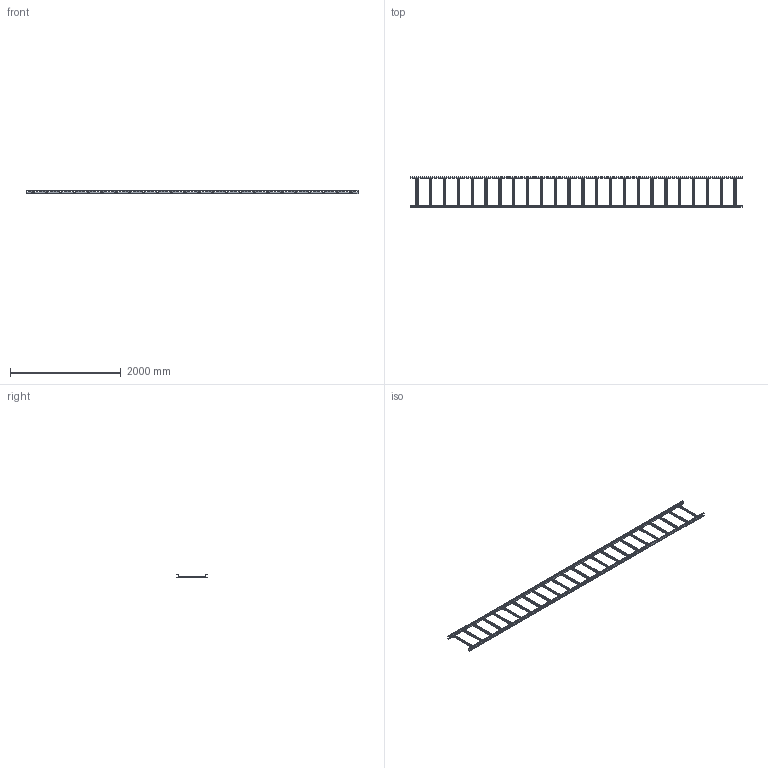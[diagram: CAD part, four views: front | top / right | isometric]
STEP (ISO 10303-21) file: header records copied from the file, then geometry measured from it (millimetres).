
FILE_DESCRIPTION(/* description */ ('','CAx-IF Rec.Pracs.---Representation and Presentation of Product Manufacturing Information (PMI)---4.0---2014-10-13'),/* implementation_level */ '2;1');
FILE_NAME(/* name */ 'Eurostrut_ECL60-500_CableLadder-3DView-{3D}.step',/* time_stamp */ '2026-09-03T08:24:25+02:00',/* author */ (''),/* organization */ (''),/* preprocessor_version */ 'ST-DEVELOPER v20.1',/* originating_system */ 'Autodesk Revit 2027 27.2.0.39',/* authorisation */ '');
FILE_SCHEMA (('AP242_MANAGED_MODEL_BASED_3D_ENGINEERING_MIM_LF { 1 0 10303 442 2 1 4 }'));
Length unit declared in the file: millimetre
Products named in the file (4): TopLevelAssembly; 60mm; 60mm_1; Cable Ladder Rung_Slotted
Assembly tree (26 placements, depth 2):
  TopLevelAssembly
    60mm
    60mm_1
    Cable Ladder Rung_Slotted  x24
Bounding box: 6000 x 546 x 60 mm (x, y, z)
Volume: 3664928.4 mm3; surface area: 5009514.1 mm2
Topology: 26 solids, 26 shells, 3852 faces, 11400 edges, 7600 vertices
Faces by surface type: plane 2532, bspline 1200, cylinder 120
Entity records: 40300 total; most frequent: CARTESIAN_POINT 8370, ORIENTED_EDGE 6792, DIRECTION 5788, EDGE_CURVE 3396, LINE 3240, VECTOR 3240, VERTEX_POINT 2264, EDGE_LOOP 1668
